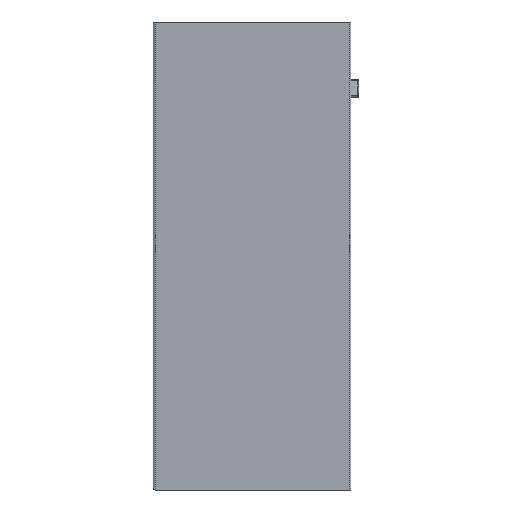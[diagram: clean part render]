
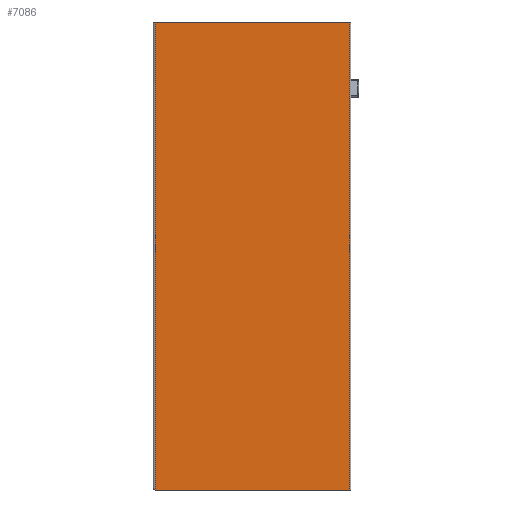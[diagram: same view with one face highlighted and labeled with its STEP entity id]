
A CAD part, left-side view. The second image highlights one B-rep face of the part: STEP entity #7086.
In plain terms, the highlighted planar face has unit normal (-1, 0, 0).
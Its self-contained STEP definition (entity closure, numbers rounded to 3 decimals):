
#67 = VERTEX_POINT ( 'NONE', #4352 ) ;
#495 = VERTEX_POINT ( 'NONE', #10207 ) ;
#1050 = DIRECTION ( 'NONE',  ( 0., -1., 0. ) ) ;
#1325 = CARTESIAN_POINT ( 'NONE',  ( -12.5, 93.8, -299. ) ) ;
#1748 = EDGE_CURVE ( 'NONE', #67, #2686, #6098, .T. ) ;
#2686 = VERTEX_POINT ( 'NONE', #10151 ) ;
#2943 = FACE_OUTER_BOUND ( 'NONE', #9640, .T. ) ;
#4352 = CARTESIAN_POINT ( 'NONE',  ( -12.5, -30.66, -299. ) ) ;
#4802 = DIRECTION ( 'NONE',  ( 0., 0., 1. ) ) ;
#4864 = CARTESIAN_POINT ( 'NONE',  ( -12.5, -30.66, -362.455 ) ) ;
#4918 = VECTOR ( 'NONE', #1050, 1000. ) ;
#5023 = LINE ( 'NONE', #7505, #4918 ) ;
#5061 = DIRECTION ( 'NONE',  ( 0., -1., 0. ) ) ;
#5072 = CARTESIAN_POINT ( 'NONE',  ( -12.5, 56.8, -299. ) ) ;
#5703 = AXIS2_PLACEMENT_3D ( 'NONE', #9895, #10303, #9252 ) ;
#6060 = VECTOR ( 'NONE', #4802, 1000. ) ;
#6098 = LINE ( 'NONE', #4864, #6060 ) ;
#6498 = EDGE_CURVE ( 'NONE', #10457, #67, #7757, .T. ) ;
#6954 = VECTOR ( 'NONE', #10141, 1000. ) ;
#6968 = LINE ( 'NONE', #9985, #6954 ) ;
#7086 = ADVANCED_FACE ( 'NONE', ( #2943 ), #9344, .T. ) ;
#7505 = CARTESIAN_POINT ( 'NONE',  ( -12.5, 55.8, 0. ) ) ;
#7757 = LINE ( 'NONE', #5072, #8025 ) ;
#8025 = VECTOR ( 'NONE', #5061, 1000. ) ;
#9047 = EDGE_CURVE ( 'NONE', #10457, #495, #6968, .T. ) ;
#9252 = DIRECTION ( 'NONE',  ( 0., 1., 0. ) ) ;
#9344 = PLANE ( 'NONE',  #5703 ) ;
#9640 = EDGE_LOOP ( 'NONE', ( #11232, #11353, #10559, #10589 ) ) ;
#9895 = CARTESIAN_POINT ( 'NONE',  ( -12.5, 55.8, -362.455 ) ) ;
#9985 = CARTESIAN_POINT ( 'NONE',  ( -12.5, 93.8, -362.455 ) ) ;
#10141 = DIRECTION ( 'NONE',  ( 0., 0., 1. ) ) ;
#10151 = CARTESIAN_POINT ( 'NONE',  ( -12.5, -30.66, 0. ) ) ;
#10207 = CARTESIAN_POINT ( 'NONE',  ( -12.5, 93.8, 0. ) ) ;
#10303 = DIRECTION ( 'NONE',  ( -1., 0., 0. ) ) ;
#10457 = VERTEX_POINT ( 'NONE', #1325 ) ;
#10559 = ORIENTED_EDGE ( 'NONE', *, *, #9047, .F. ) ;
#10589 = ORIENTED_EDGE ( 'NONE', *, *, #6498, .T. ) ;
#10844 = EDGE_CURVE ( 'NONE', #495, #2686, #5023, .T. ) ;
#11232 = ORIENTED_EDGE ( 'NONE', *, *, #1748, .T. ) ;
#11353 = ORIENTED_EDGE ( 'NONE', *, *, #10844, .F. ) ;
